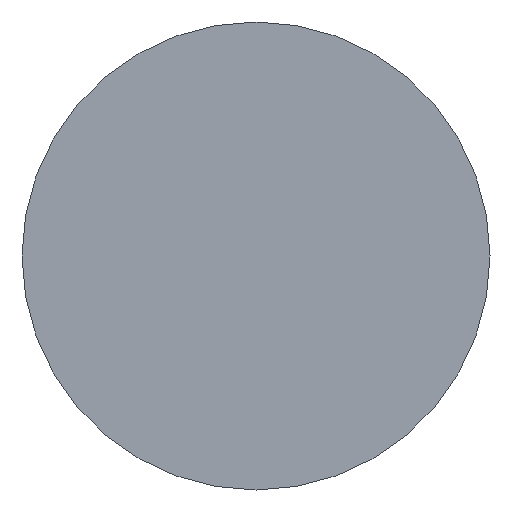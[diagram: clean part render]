
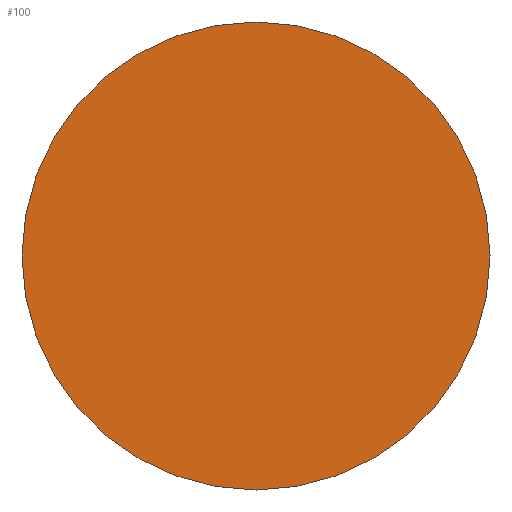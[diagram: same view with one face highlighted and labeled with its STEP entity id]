
A CAD part, left-side view. The second image highlights one B-rep face of the part: STEP entity #100.
In plain terms, the highlighted planar face has unit normal (-1, 0, 0).
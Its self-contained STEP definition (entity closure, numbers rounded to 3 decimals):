
#5 = CIRCLE ( 'NONE', #260, 6. ) ;
#18 = DIRECTION ( 'NONE',  ( 1., 0., 0. ) ) ;
#22 = CARTESIAN_POINT ( 'NONE',  ( 0., -6., 0. ) ) ;
#23 = VERTEX_POINT ( 'NONE', #22 ) ;
#34 = PLANE ( 'NONE',  #75 ) ;
#62 = EDGE_CURVE ( 'NONE', #130, #23, #241, .T. ) ;
#67 = CARTESIAN_POINT ( 'NONE',  ( 0., 0., 0. ) ) ;
#75 = AXIS2_PLACEMENT_3D ( 'NONE', #156, #176, #220 ) ;
#96 = EDGE_LOOP ( 'NONE', ( #169, #223 ) ) ;
#100 = ADVANCED_FACE ( 'NONE', ( #218 ), #34, .T. ) ;
#130 = VERTEX_POINT ( 'NONE', #188 ) ;
#139 = DIRECTION ( 'NONE',  ( 0., 1., 0. ) ) ;
#156 = CARTESIAN_POINT ( 'NONE',  ( 0., 0., 0. ) ) ;
#169 = ORIENTED_EDGE ( 'NONE', *, *, #62, .F. ) ;
#176 = DIRECTION ( 'NONE',  ( -1., 0., 0. ) ) ;
#188 = CARTESIAN_POINT ( 'NONE',  ( 0., 6., 0. ) ) ;
#193 = CARTESIAN_POINT ( 'NONE',  ( 0., 0., 0. ) ) ;
#195 = AXIS2_PLACEMENT_3D ( 'NONE', #67, #18, #139 ) ;
#205 = DIRECTION ( 'NONE',  ( 1., 0., 0. ) ) ;
#218 = FACE_OUTER_BOUND ( 'NONE', #96, .T. ) ;
#220 = DIRECTION ( 'NONE',  ( 0., -1., 0. ) ) ;
#221 = DIRECTION ( 'NONE',  ( 0., 1., 0. ) ) ;
#223 = ORIENTED_EDGE ( 'NONE', *, *, #233, .F. ) ;
#233 = EDGE_CURVE ( 'NONE', #23, #130, #5, .T. ) ;
#241 = CIRCLE ( 'NONE', #195, 6. ) ;
#260 = AXIS2_PLACEMENT_3D ( 'NONE', #193, #205, #221 ) ;
